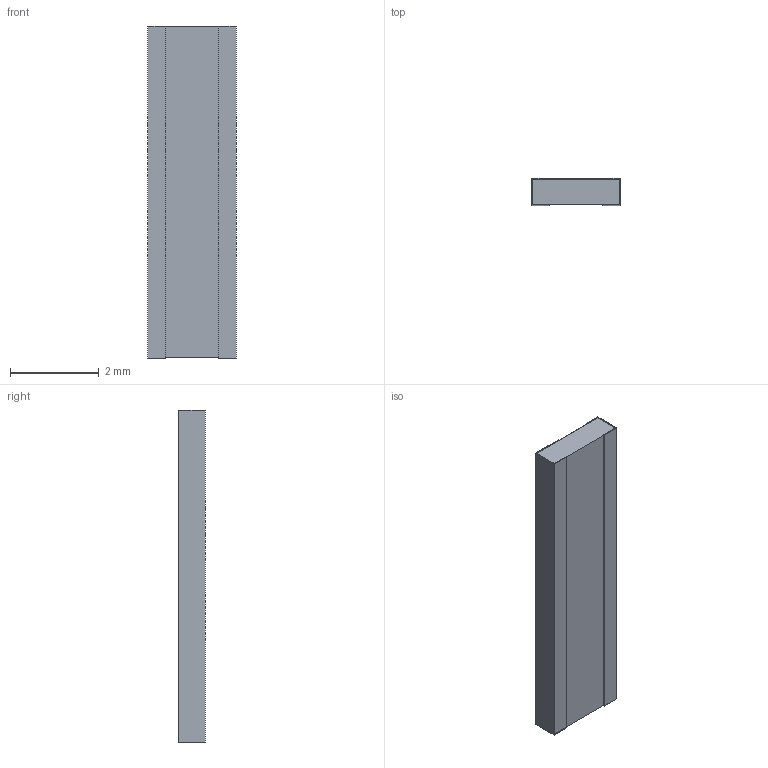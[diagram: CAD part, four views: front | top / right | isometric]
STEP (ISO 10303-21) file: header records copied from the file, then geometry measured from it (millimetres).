
FILE_DESCRIPTION(/* description */ (''),/* implementation_level */ '2;1');
FILE_NAME(/* name */ 'C:\Users\mulla\Documents\SEI Models\Inventor Files\CSR\CSR0830_stp.stp',/* time_stamp */ '2019-06-14T16:52:55-04:00',/* author */ ('mulla'),/* organization */ (''),/* preprocessor_version */ 'ST-DEVELOPER v16.1',/* originating_system */ 'Autodesk Inventor 2016',/* authorisation */ '');
FILE_SCHEMA (('AUTOMOTIVE_DESIGN { 1 0 10303 214 3 1 1 }'));
Length unit declared in the file: millimetre
Products named in the file (1): CSR0830
Bounding box: 2 x 0.6 x 7.5 mm (x, y, z)
Volume: 8.8 mm3; surface area: 100.1 mm2
Topology: 4 solids, 4 shells, 32 faces, 72 edges, 48 vertices
Faces by surface type: plane 32
Entity records: 950 total; most frequent: CARTESIAN_POINT 153, ORIENTED_EDGE 144, DIRECTION 138, LINE 72, VECTOR 72, EDGE_CURVE 72, VERTEX_POINT 48, STYLED_ITEM 36
